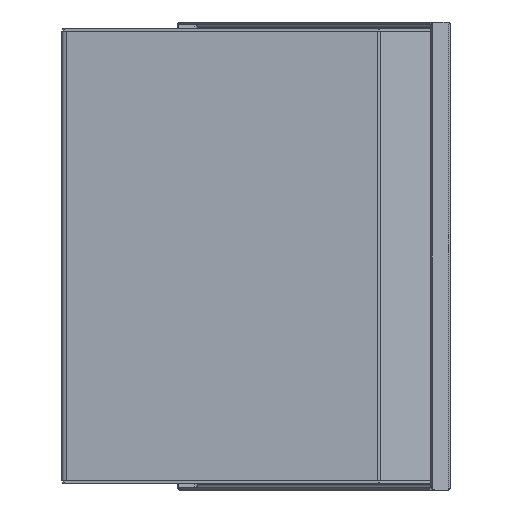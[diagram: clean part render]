
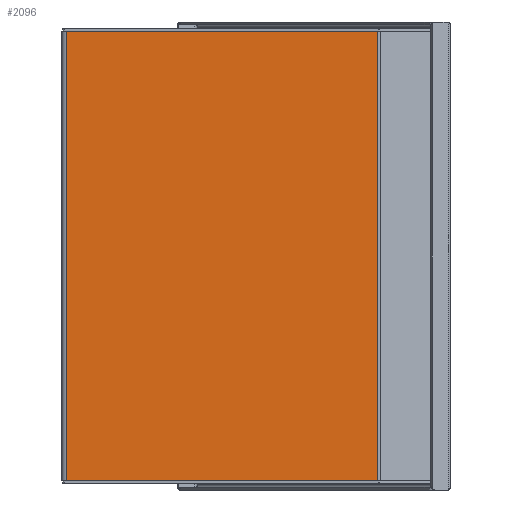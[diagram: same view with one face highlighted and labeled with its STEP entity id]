
A CAD part, left-side view. The second image highlights one B-rep face of the part: STEP entity #2096.
In plain terms, the highlighted planar face has unit normal (-1, 0, 0).
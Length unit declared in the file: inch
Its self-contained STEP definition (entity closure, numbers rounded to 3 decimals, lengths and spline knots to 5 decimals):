
#16=DIRECTION('',(0.,0.,1.));
#17=VECTOR('',#16,10.63);
#18=CARTESIAN_POINT('',(-5.345,2.3803,-5.315));
#19=LINE('',#18,#17);
#47=DIRECTION('',(0.,-1.,0.));
#48=VECTOR('',#47,7.36466);
#49=CARTESIAN_POINT('',(-5.345,2.3803,-5.315));
#50=LINE('',#49,#48);
#585=DIRECTION('',(0.,0.,-1.));
#586=VECTOR('',#585,10.63);
#587=CARTESIAN_POINT('',(-5.345,-4.98436,5.315));
#588=LINE('',#587,#586);
#607=DIRECTION('',(0.,1.,0.));
#608=VECTOR('',#607,7.36466);
#609=CARTESIAN_POINT('',(-5.345,-4.98436,5.315));
#610=LINE('',#609,#608);
#2069=CARTESIAN_POINT('',(-5.345,-4.98436,5.315));
#2070=CARTESIAN_POINT('',(-5.345,2.3803,5.315));
#2071=VERTEX_POINT('',#2069);
#2072=VERTEX_POINT('',#2070);
#2077=CARTESIAN_POINT('',(-5.345,2.3803,-5.315));
#2078=CARTESIAN_POINT('',(-5.345,-4.98436,-5.315));
#2079=VERTEX_POINT('',#2077);
#2080=VERTEX_POINT('',#2078);
#2081=CARTESIAN_POINT('',(-5.345,2.5003,-5.375));
#2082=DIRECTION('',(-1.,0.,0.));
#2083=DIRECTION('',(0.,-1.,0.));
#2084=AXIS2_PLACEMENT_3D('',#2081,#2082,#2083);
#2085=PLANE('',#2084);
#2087=ORIENTED_EDGE('',*,*,#2086,.T.);
#2089=ORIENTED_EDGE('',*,*,#2088,.F.);
#2091=ORIENTED_EDGE('',*,*,#2090,.T.);
#2093=ORIENTED_EDGE('',*,*,#2092,.F.);
#2094=EDGE_LOOP('',(#2087,#2089,#2091,#2093));
#2095=FACE_OUTER_BOUND('',#2094,.F.);
#2086=EDGE_CURVE('',#2079,#2072,#19,.T.);
#2088=EDGE_CURVE('',#2071,#2072,#610,.T.);
#2090=EDGE_CURVE('',#2071,#2080,#588,.T.);
#2092=EDGE_CURVE('',#2079,#2080,#50,.T.);
#2096=ADVANCED_FACE('',(#2095),#2085,.T.);
